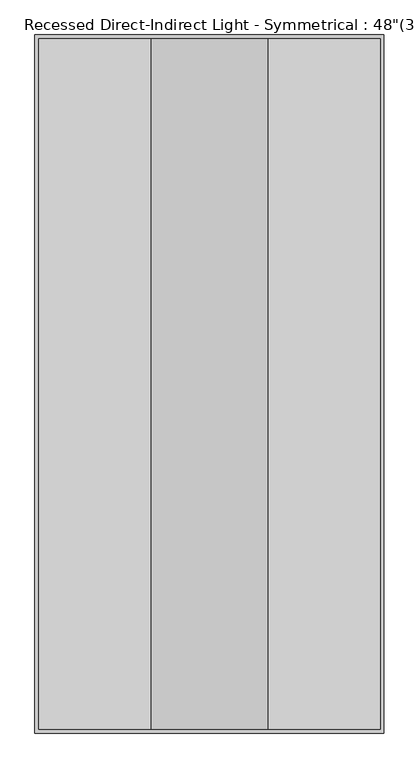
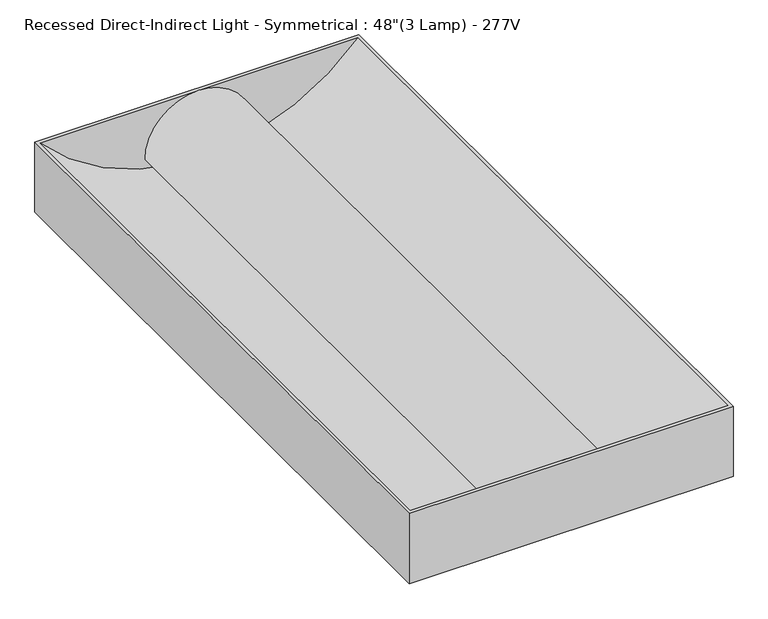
"""IFC4 building model written with IfcOpenShell, lengths in millimetres: light fixture geometry."""

from ifc_helpers import new_model, si_unit, point, frame, frame_2d, origin, place, context, project, spatial, polyline, circle_curve, trimmed, segment, composite_curve, outline, extrude, source, transform, mapped, element, save
from ifc_brep_helpers import plane_surface, revolved_surface, advanced_brep


def light_fixture_84ca9390(model_context):
    return source(origin(), model_context, "Body", "SolidModel", [
        extrude(outline(composite_curve([segment(trimmed(circle_curve(frame_2d((-101.6, 0.0)), 101.6), [point((-101.6, 101.6))], [point((-101.6, -101.6))], False, "CARTESIAN"), True, "CONTINUOUS"), segment(polyline([(-101.6, -101.6), (-101.6, -95.25)]), True, "CONTINUOUS"), segment(trimmed(circle_curve(frame_2d((-101.6, 0.0)), 95.25), [point((-101.6, -95.25))], [point((-101.6, 95.25))], True, "CARTESIAN"), True, "CONTINUOUS"), segment(polyline([(-101.6, 95.25), (-101.6, 101.6)]), True, "CONTINUOUS")], self_intersect=False)), frame((0.0, -603.25, 0.0), z_axis=(0.0, 1.0, 0.0), x_axis=(0.0, 0.0, 1.0)), (0.0, 0.0, 1.0), 1206.5),
        advanced_brep(
        [(304.8, 609.6, 0.0), (-304.8, 609.6, 0.0), (-304.8, -609.6, 0.0), (304.8, -609.6, 0.0), (298.45, -603.25, 0.0), (-298.45, -603.25, 0.0), (-298.45, 603.25, 0.0), (298.45, 603.25, 0.0), (304.8, 609.6, -139.7), (304.8, -609.6, -139.7), (-304.8, -609.6, -139.7), (-304.8, 609.6, -139.7)],
        [
            (0, 1),
            (1, 2),
            (2, 3),
            (3, 0),
            (4, 5),
            (5, 6),
            (6, 7),
            (7, 4),
            (8, 9),
            (9, 10),
            (10, 11),
            (11, 8),
            (0, 8),
            (11, 1),
            (10, 2),
            (9, 3),
            (4, 5, circle_curve(frame((0.0, -603.25, 267.3047619), z_axis=(0.0, 1.0, 0.0), x_axis=(1.0, 0.0, 0.0)), 400.6547619)),
            (6, 7, circle_curve(frame((0.0, 603.25, 267.3047619), z_axis=(0.0, -1.0, 0.0), x_axis=(1.0, 0.0, 0.0)), 400.6547619)),
        ],
        [
            plane_surface(frame((-304.8, 609.6, 0.0), z_axis=(0.0, 0.0, 1.0), x_axis=(-1.0, 0.0, 0.0))),
            plane_surface(frame((-304.8, 609.6, -139.7), z_axis=(0.0, 0.0, -1.0), x_axis=(1.0, 0.0, 0.0))),
            plane_surface(frame((304.8, 609.6, 0.0), z_axis=(0.0, 1.0, 0.0), x_axis=(0.0, 0.0, -1.0))),
            plane_surface(frame((-304.8, 609.6, 0.0), z_axis=(-1.0, 0.0, 0.0), x_axis=(0.0, 0.0, -1.0))),
            plane_surface(frame((-304.8, -609.6, 0.0), z_axis=(0.0, -1.0, 0.0), x_axis=(0.0, 0.0, -1.0))),
            plane_surface(frame((304.8, -609.6, 0.0), z_axis=(1.0, 0.0, 0.0), x_axis=(0.0, 0.0, -1.0))),
            plane_surface(frame((-298.45, -603.25, 0.0), z_axis=(0.0, 1.0, 0.0), x_axis=(-1.0, 0.0, 0.0))),
            plane_surface(frame((-298.45, 603.25, 0.0), z_axis=(0.0, -1.0, 0.0), x_axis=(1.0, 0.0, 0.0))),
            revolved_surface(polyline([(400.6547619, -603.25, 267.3047619), (400.6547619, 603.25, 267.3047619)]), (0.0, 603.25, 267.3047619), (0.0, -1.0, 0.0)),
        ],
        [
            (0, [[1, 2, 3, 4], [5, 6, 7, 8]]),
            (1, [[9, 10, 11, 12]]),
            (2, [[-1, 13, -12, 14]]),
            (3, [[-2, -14, -11, 15]]),
            (4, [[-3, -15, -10, 16]]),
            (5, [[-4, -16, -9, -13]]),
            (6, [[17, -5]]),
            (7, [[18, -7]]),
            (8, [[-17, -8, -18, -6]]),
        ],
    ),
    ])


if __name__ == "__main__":
    model = new_model("IFC4")
    model_context = context("Model", 3, world=origin())
    ifc_project = project(units=[si_unit("LENGTHUNIT", "METRE", prefix="MILLI")], contexts=[model_context])
    site = spatial("IfcSite", under=ifc_project)
    building = spatial("IfcBuilding", under=site)
    placement = place(None, origin())
    light_fixture_shape = light_fixture_84ca9390(model_context)
    element("IfcLightFixture", 1, ObjectType="Recessed Direct-Indirect Light - Symmetrical : 48\"(3 Lamp) - 277V", at=placement, inside=building, context=model_context, shape_type="MappedRepresentation", body=[
        mapped(light_fixture_shape, transform((0.0, 0.0, 0.0), x_axis=(1.0, 0.0, 0.0), y_axis=(0.0, 1.0, 0.0), z_axis=(0.0, 0.0, 1.0))),
    ])
    save(model, "model.ifc")
